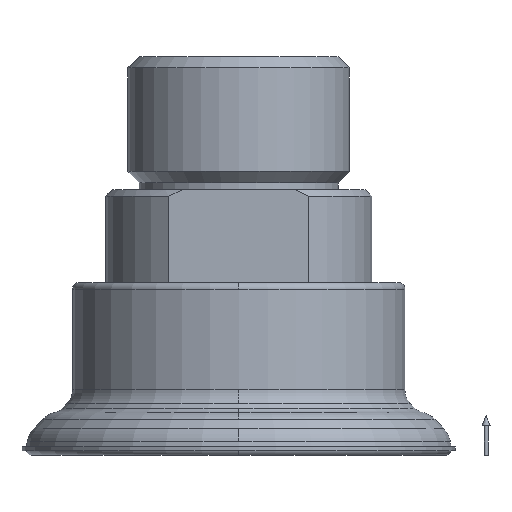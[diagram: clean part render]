
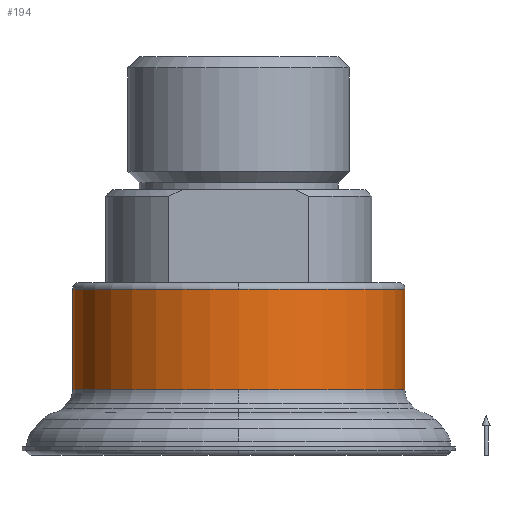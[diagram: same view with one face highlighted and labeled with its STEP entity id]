
A CAD part, front view. The second image highlights one B-rep face of the part: STEP entity #194.
In plain terms, the highlighted cylindrical face has radius 12.5 mm (diameter 25 mm), a partial arc.
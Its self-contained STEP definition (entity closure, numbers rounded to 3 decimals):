
#194=ADVANCED_FACE('',(#463),#464,.T.);
#463=FACE_OUTER_BOUND('',#818,.T.);
#464=CYLINDRICAL_SURFACE('',#819,12.5);
#818=EDGE_LOOP('',(#1328,#1329,#1330,#1331,#1332,#1333));
#819=AXIS2_PLACEMENT_3D('',#1334,#1335,#1336);
#1328=ORIENTED_EDGE('',*,*,#2171,.F.);
#1329=ORIENTED_EDGE('',*,*,#2172,.T.);
#1330=ORIENTED_EDGE('',*,*,#2173,.T.);
#1331=ORIENTED_EDGE('',*,*,#2174,.F.);
#1332=ORIENTED_EDGE('',*,*,#2166,.F.);
#1333=ORIENTED_EDGE('',*,*,#2175,.F.);
#1334=CARTESIAN_POINT('',(0.0,0.,8.716));
#1335=DIRECTION('',(-0.0,0.,1.0));
#1336=DIRECTION('',(1.0,0.0,0.0));
#2166=EDGE_CURVE('',#2616,#2618,#2619,.T.);
#2171=EDGE_CURVE('',#2626,#2627,#2628,.T.);
#2172=EDGE_CURVE('',#2626,#2629,#2630,.T.);
#2173=EDGE_CURVE('',#2629,#2631,#2632,.T.);
#2174=EDGE_CURVE('',#2618,#2631,#2633,.T.);
#2175=EDGE_CURVE('',#2627,#2616,#2634,.T.);
#2616=VERTEX_POINT('',#3173);
#2618=VERTEX_POINT('',#3175);
#2619=CIRCLE('',#3176,12.5);
#2626=VERTEX_POINT('',#3183);
#2627=VERTEX_POINT('',#3184);
#2628=LINE('',#3185,#3186);
#2629=VERTEX_POINT('',#3187);
#2630=CIRCLE('',#3188,12.5);
#2631=VERTEX_POINT('',#3189);
#2632=CIRCLE('',#3190,12.5);
#2633=LINE('',#3191,#3192);
#2634=CIRCLE('',#3193,12.5);
#3173=CARTESIAN_POINT('',(0.,-12.5,4.932));
#3175=CARTESIAN_POINT('',(-12.5,0.,4.932));
#3176=AXIS2_PLACEMENT_3D('',#3851,#3852,#3853);
#3183=CARTESIAN_POINT('',(12.5,0.,12.5));
#3184=CARTESIAN_POINT('',(12.5,0.,4.932));
#3185=CARTESIAN_POINT('',(12.5,0.,8.716));
#3186=VECTOR('',#3863,1.0);
#3187=CARTESIAN_POINT('',(0.,-12.5,12.5));
#3188=AXIS2_PLACEMENT_3D('',#3864,#3865,#3866);
#3189=CARTESIAN_POINT('',(-12.5,0.,12.5));
#3190=AXIS2_PLACEMENT_3D('',#3867,#3868,#3869);
#3191=CARTESIAN_POINT('',(-12.5,0.,8.716));
#3192=VECTOR('',#3870,1.0);
#3193=AXIS2_PLACEMENT_3D('',#3871,#3872,#3873);
#3851=CARTESIAN_POINT('',(0.0,0.,4.932));
#3852=DIRECTION('',(0.0,0.,-1.0));
#3853=DIRECTION('',(1.0,0.0,0.0));
#3863=DIRECTION('',(0.0,0.,-1.0));
#3864=CARTESIAN_POINT('',(0.0,0.,12.5));
#3865=DIRECTION('',(0.0,0.,-1.0));
#3866=DIRECTION('',(1.0,0.0,0.0));
#3867=CARTESIAN_POINT('',(0.0,0.,12.5));
#3868=DIRECTION('',(0.0,0.,-1.0));
#3869=DIRECTION('',(1.0,0.0,0.0));
#3870=DIRECTION('',(-0.0,0.,1.0));
#3871=CARTESIAN_POINT('',(0.0,0.,4.932));
#3872=DIRECTION('',(0.0,0.,-1.0));
#3873=DIRECTION('',(1.0,0.0,0.0));
